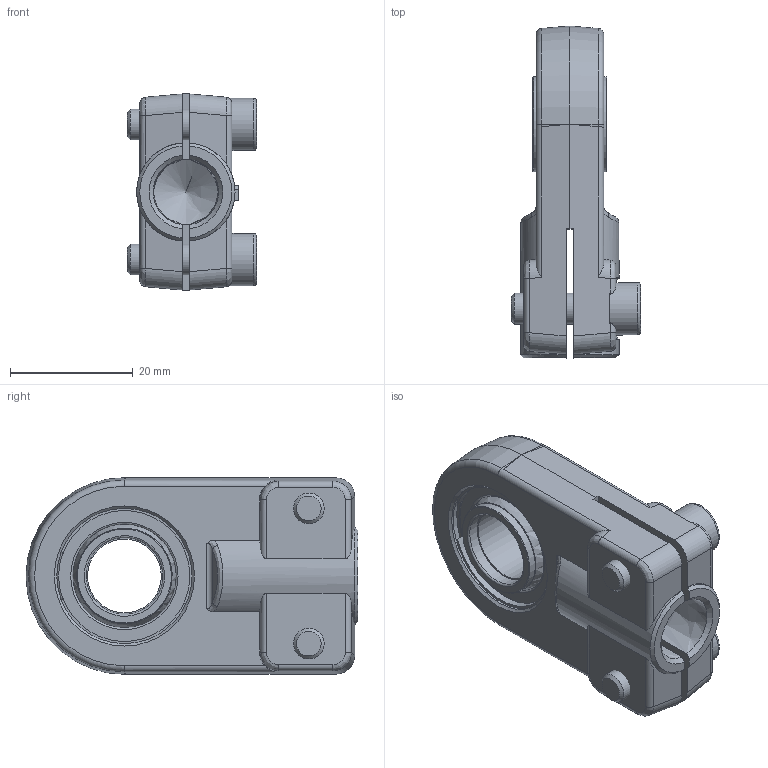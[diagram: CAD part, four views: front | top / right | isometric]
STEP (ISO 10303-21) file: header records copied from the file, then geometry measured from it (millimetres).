
FILE_DESCRIPTION((''),'2;1');
FILE_NAME('H:\WSW\Hydraulikgelenkköpfe\Aktuelle GK Zeichnungen andere Formate\WAPR..CE\WAPR..CE .STP\K-WAPR12CE.stp','2007-12-21T10:58:30',('oliver.joswig'),(''),'Autodesk Inventor 2008','Autodesk Inventor 2008','');
FILE_SCHEMA(('AUTOMOTIVE_DESIGN { 1 0 10303 214 1 1 1 1 }'));
Length unit declared in the file: millimetre
Products named in the file (6): K-WAPR12CE; GEEW_ES_Aussenring mit Nut [Benennung=AR_GEEW12ES][Kugel_dk=9mm][Breite=7mm][Radius_r1s=0,3mm][Aussendurchmessser=11mm]; GEEW12ES_Innenring; F-WAPR12CE; NG12_SB22; DIN EN ISO 4762  (Regelgewinde) M5 x 16
Assembly tree (7 placements, depth 2):
  K-WAPR12CE
    GEEW_ES_Aussenring mit Nut [Benennung=AR_GEEW12ES][Kugel_dk=9mm][Breite=7mm][Radius_r1s=0,3mm][Aussendurchmessser=11mm]
    GEEW12ES_Innenring
    F-WAPR12CE
    NG12_SB22  x2
    DIN EN ISO 4762  (Regelgewinde) M5 x 16  x2
Bounding box: 21 x 54 x 32 mm (x, y, z)
Volume: 15352.3 mm3; surface area: 10933 mm2
Topology: 7 solids, 7 shells, 235 faces, 573 edges, 364 vertices
Faces by surface type: plane 110, cylinder 61, bspline 31, cone 20, torus 12, sphere 1
Full cylindrical faces by diameter (mm): 0.877 x2, 5 x2, 8.5 x2, 12 x1, 12.5 x2, 15.5 x2, 21.462 x1, 22 x5, 23 x2
Entity records: 8119 total; most frequent: CARTESIAN_POINT 3131, DIRECTION 983, ORIENTED_EDGE 958, EDGE_CURVE 479, AXIS2_PLACEMENT_3D 369, VERTEX_POINT 329, EDGE_LOOP 288, VECTOR 245
